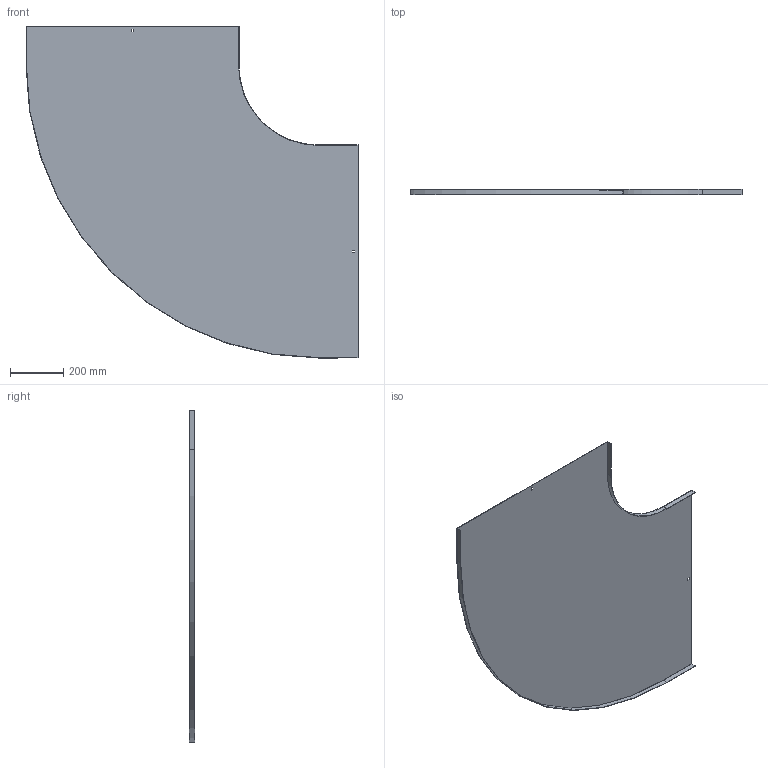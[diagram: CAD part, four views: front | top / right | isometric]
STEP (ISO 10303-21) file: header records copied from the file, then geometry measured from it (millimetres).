
FILE_DESCRIPTION (( 'STEP AP214' ), '1' );
FILE_NAME ('A2_10N3R800.step', '2025-02-21T10:54:06', ( '' ), ( '' ), 'SwSTEP 2.0', 'SolidWorks 2023', '' );
FILE_SCHEMA (( 'AUTOMOTIVE_DESIGN' ));
Length unit declared in the file: millimetre
Products named in the file (1): A2_10N3R800
Bounding box: 1251.5 x 20 x 1251.5 mm (x, y, z)
Volume: 1763266.9 mm3; surface area: 2357834.2 mm2
Topology: 1 solids, 1 shells, 26 faces, 72 edges, 48 vertices
Faces by surface type: plane 22, cylinder 4
Entity records: 855 total; most frequent: CARTESIAN_POINT 147, ORIENTED_EDGE 144, DIRECTION 134, EDGE_CURVE 72, VECTOR 64, LINE 64, VERTEX_POINT 48, AXIS2_PLACEMENT_3D 35
